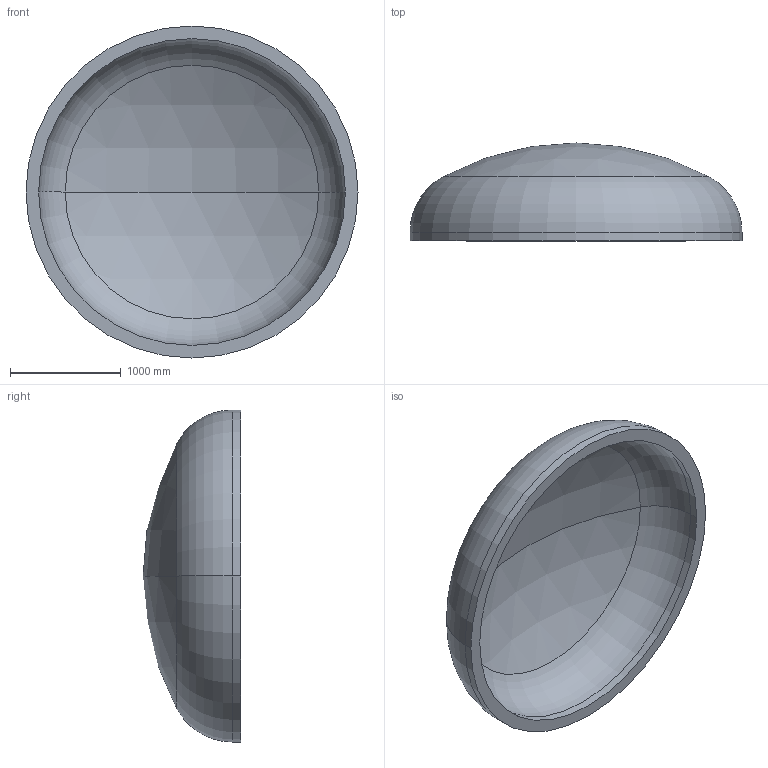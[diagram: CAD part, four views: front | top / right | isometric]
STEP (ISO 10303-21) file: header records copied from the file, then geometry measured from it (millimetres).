
FILE_DESCRIPTION (( 'STEP AP203' ), '1' );
FILE_NAME ('DIN 28013 Korbbogenform_-_Boden DIN 28013 - 3000 x 75 - I - s=114.step', '2016-07-01T18:11:11', ( '' ), ( '' ), 'SwSTEP 2.0', 'SolidWorks 2013', '' );
FILE_SCHEMA (( 'CONFIG_CONTROL_DESIGN' ));
Length unit declared in the file: millimetre
Products named in the file (1): DIN 28013 Korbbogenform_-_Boden DIN 28013 - 3000 x 75 - I - s=114
Bounding box: 3000 x 884.26 x 3000 mm (x, y, z)
Volume: 1138929939.1 mm3; surface area: 21042035.9 mm2
Topology: 1 solids, 1 shells, 13 faces, 24 edges, 14 vertices
Faces by surface type: torus 4, cylinder 4, sphere 4, plane 1
Entity records: 407 total; most frequent: DIRECTION 72, CARTESIAN_POINT 52, ORIENTED_EDGE 48, AXIS2_PLACEMENT_3D 34, EDGE_CURVE 24, CIRCLE 20, EDGE_LOOP 14, VERTEX_POINT 14
